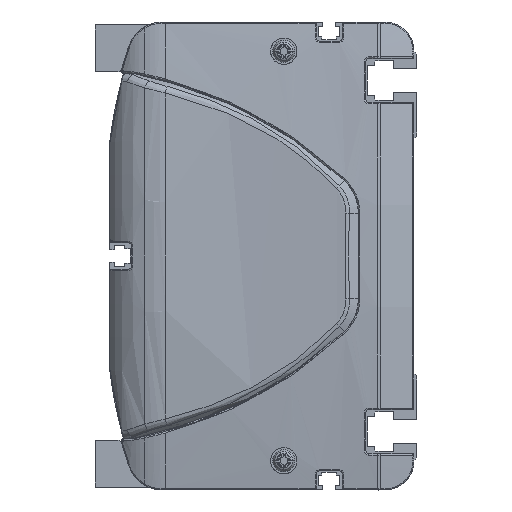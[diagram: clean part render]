
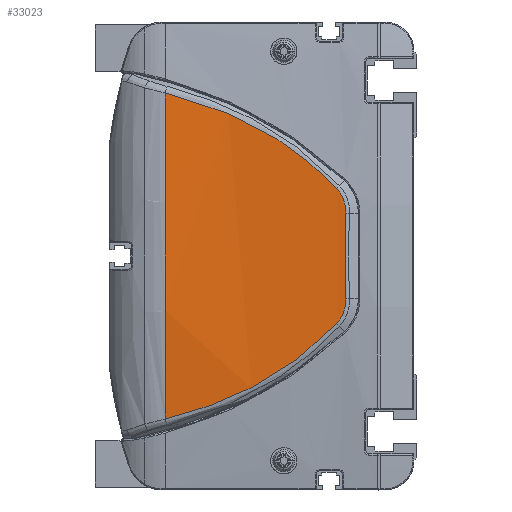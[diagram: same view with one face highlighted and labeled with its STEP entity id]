
A CAD part, left-side view. The second image highlights one B-rep face of the part: STEP entity #33023.
In plain terms, the highlighted cylindrical face has radius 600 mm (diameter 1200 mm), a partial arc.
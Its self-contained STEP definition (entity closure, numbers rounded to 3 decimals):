
#11285=CARTESIAN_POINT('',(-12.406,86.,
55.736));
#11286=CARTESIAN_POINT('',(-12.529,80.495,
54.41));
#11287=CARTESIAN_POINT('',(-12.828,69.636,
51.114));
#11288=CARTESIAN_POINT('',(-13.389,54.079,
44.179));
#11289=CARTESIAN_POINT('',(-14.01,39.709,
34.979));
#11290=CARTESIAN_POINT('',(-14.395,31.353,
27.243));
#11291=CARTESIAN_POINT('',(-14.555,27.451,
23.113));
#11293=CARTESIAN_POINT('',(-14.555,27.451,
23.113));
#11294=CARTESIAN_POINT('',(-14.641,25.336,
20.875));
#11295=CARTESIAN_POINT('',(-14.745,24.202,
17.745));
#11296=CARTESIAN_POINT('',(-14.821,24.351,
14.67));
#11298=CARTESIAN_POINT('',(-14.821,24.351,
14.67));
#11299=CARTESIAN_POINT('',(-14.9,24.51,
11.413));
#11300=CARTESIAN_POINT('',(-15.007,24.721,
4.895));
#11301=CARTESIAN_POINT('',(-15.007,24.721,
-4.895));
#11302=CARTESIAN_POINT('',(-14.9,24.51,
-11.413));
#11303=CARTESIAN_POINT('',(-14.821,24.351,
-14.67));
#11305=CARTESIAN_POINT('',(-14.821,24.351,
-14.67));
#11306=CARTESIAN_POINT('',(-14.745,24.202,
-17.745));
#11307=CARTESIAN_POINT('',(-14.641,25.337,
-20.876));
#11308=CARTESIAN_POINT('',(-14.555,27.451,
-23.113));
#11310=CARTESIAN_POINT('',(-14.555,27.451,
-23.113));
#11311=CARTESIAN_POINT('',(-14.395,31.353,
-27.243));
#11312=CARTESIAN_POINT('',(-14.01,39.709,
-34.979));
#11313=CARTESIAN_POINT('',(-13.389,54.079,
-44.179));
#11314=CARTESIAN_POINT('',(-12.828,69.636,
-51.114));
#11315=CARTESIAN_POINT('',(-12.529,80.495,
-54.41));
#11316=CARTESIAN_POINT('',(-12.406,86.,
-55.736));
#11318=CARTESIAN_POINT('',(585.,86.,0.));
#11319=DIRECTION('',(0.,1.,0.));
#11320=DIRECTION('',(-0.996,0.,-0.093));
#11321=AXIS2_PLACEMENT_3D('',#11318,#11319,#11320);
#11334=CARTESIAN_POINT('',(-12.406,86.,
55.736));
#14377=VERTEX_POINT('',#11334);
#14378=CARTESIAN_POINT('',(-12.406,86.,
-55.736));
#14379=VERTEX_POINT('',#14378);
#14429=VERTEX_POINT('',#11291);
#14430=VERTEX_POINT('',#11296);
#14431=VERTEX_POINT('',#11303);
#14432=VERTEX_POINT('',#11308);
#33005=CARTESIAN_POINT('',(585.,87.45,0.));
#33006=DIRECTION('',(0.,-1.,0.));
#33007=DIRECTION('',(0.,0.,-1.));
#33008=AXIS2_PLACEMENT_3D('',#33005,#33006,#33007);
#33009=CYLINDRICAL_SURFACE('',#33008,600.);
#33011=ORIENTED_EDGE('',*,*,#33010,.T.);
#33013=ORIENTED_EDGE('',*,*,#33012,.T.);
#33014=ORIENTED_EDGE('',*,*,#32995,.T.);
#33016=ORIENTED_EDGE('',*,*,#33015,.T.);
#33018=ORIENTED_EDGE('',*,*,#33017,.T.);
#33020=ORIENTED_EDGE('',*,*,#33019,.T.);
#33021=EDGE_LOOP('',(#33011,#33013,#33014,#33016,#33018,#33020));
#33022=FACE_OUTER_BOUND('',#33021,.F.);
#33023=ADVANCED_FACE('',(#33022),#33009,.T.);
#11292=B_SPLINE_CURVE_WITH_KNOTS('',3,(#11285,#11286,#11287,#11288,#11289,
#11290,#11291),.UNSPECIFIED.,.F.,.F.,(4,1,1,1,4),(0.,0.25,0.5,0.75,
1.),.UNSPECIFIED.);
#11297=B_SPLINE_CURVE_WITH_KNOTS('',3,(#11293,#11294,#11295,#11296),
.UNSPECIFIED.,.F.,.F.,(4,4),(0.,1.),.UNSPECIFIED.);
#11304=B_SPLINE_CURVE_WITH_KNOTS('',3,(#11298,#11299,#11300,#11301,#11302,
#11303),.UNSPECIFIED.,.F.,.F.,(4,1,1,4),(0.,0.333,
0.667,1.),.UNSPECIFIED.);
#11309=B_SPLINE_CURVE_WITH_KNOTS('',3,(#11305,#11306,#11307,#11308),
.UNSPECIFIED.,.F.,.F.,(4,4),(0.,1.),.UNSPECIFIED.);
#11317=B_SPLINE_CURVE_WITH_KNOTS('',3,(#11310,#11311,#11312,#11313,#11314,
#11315,#11316),.UNSPECIFIED.,.F.,.F.,(4,1,1,1,4),(0.,0.25,0.5,0.75,
1.),.UNSPECIFIED.);
#11322=CIRCLE('',#11321,600.);
#32995=EDGE_CURVE('',#14430,#14431,#11304,.T.);
#33010=EDGE_CURVE('',#14377,#14429,#11292,.T.);
#33012=EDGE_CURVE('',#14429,#14430,#11297,.T.);
#33015=EDGE_CURVE('',#14431,#14432,#11309,.T.);
#33017=EDGE_CURVE('',#14432,#14379,#11317,.T.);
#33019=EDGE_CURVE('',#14379,#14377,#11322,.T.);
